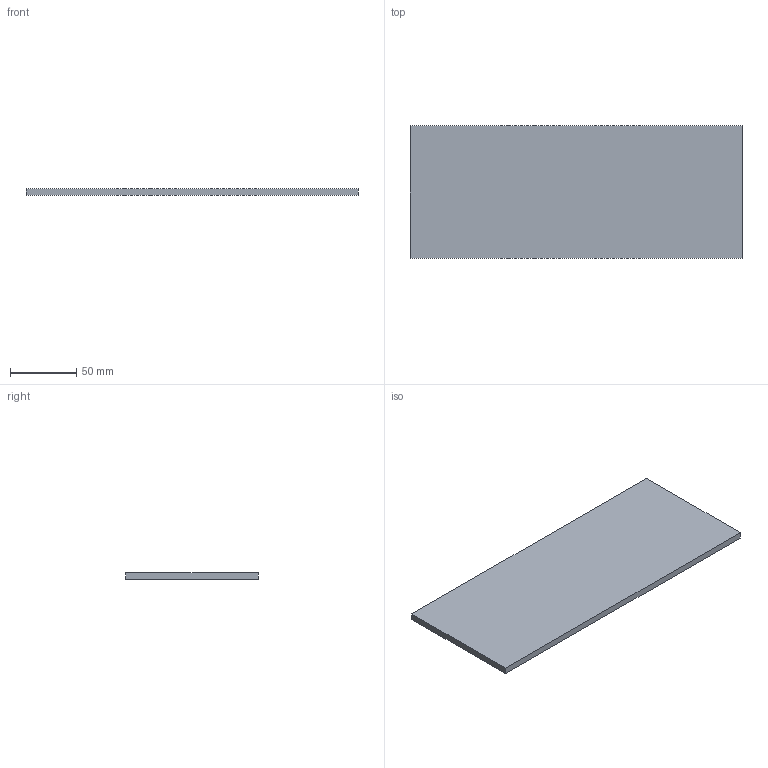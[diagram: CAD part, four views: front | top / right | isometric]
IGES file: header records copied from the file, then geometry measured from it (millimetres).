
Start section: SolidWorks IGES file using analytic representation for surfaces
Global section: file name: C:\Documents and Settings\Pc\Escritorio\Modelos 3D\Capítulo 2 (Frecuencia)\PRACTICAS\P-7\practica 1.IGS; native system: SolidWorks 2010; preprocessor: SolidWorks 2010; author: Pc; date: 100623.113302; units: millimetre
Bounding box: 250 x 100 x 5 mm (x, y, z)
Surface area: 53500 mm2 (no closed solid volume)
Topology: 0 solids, 0 shells, 6 faces, 24 edges, 24 vertices
Faces by surface type: bspline 6
